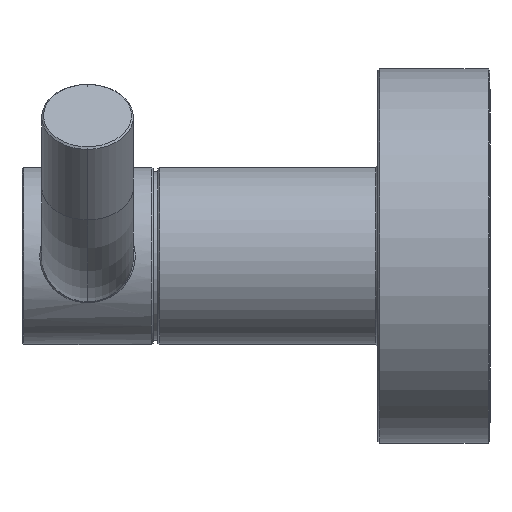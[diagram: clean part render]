
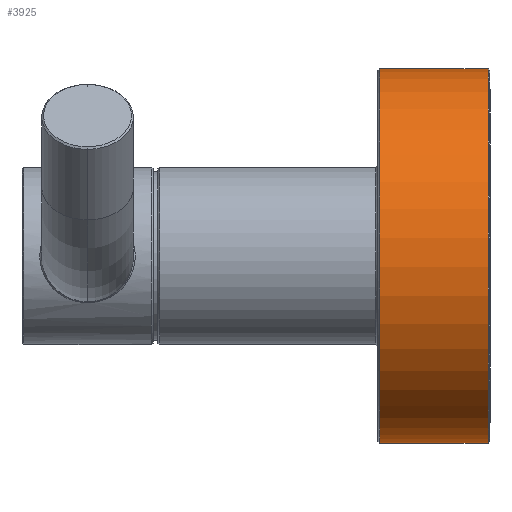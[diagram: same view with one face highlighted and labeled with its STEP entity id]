
A CAD part, left-side view. The second image highlights one B-rep face of the part: STEP entity #3925.
In plain terms, the highlighted cylindrical face has radius 20 mm (diameter 40 mm), a partial arc.
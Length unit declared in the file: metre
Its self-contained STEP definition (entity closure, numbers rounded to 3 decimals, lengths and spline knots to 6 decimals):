
#3894=EDGE_CURVE('',#3895,#3897,#3899,.T.);
#3895=VERTEX_POINT('',#3896);
#3896=CARTESIAN_POINT('',(-0.07,0.0118,0.02));
#3897=VERTEX_POINT('',#3898);
#3898=CARTESIAN_POINT('',(-0.07,0.0002,0.02));
#3899=LINE('',#3900,#3901);
#3900=CARTESIAN_POINT('',(-0.07,0.012,0.02));
#3901=VECTOR('',#3902,1.0);
#3902=DIRECTION('',(0.0,-1.0,0.0));
#3925=ADVANCED_FACE('',(#3931),#3926,.T.);
#3926=CYLINDRICAL_SURFACE('',#3927,0.02);
#3927=AXIS2_PLACEMENT_3D('',#3928,#3929,#3930);
#3928=CARTESIAN_POINT('',(-0.07,0.012,0.0));
#3929=DIRECTION('',(0.0,-1.0,0.0));
#3930=DIRECTION('',(0.0,0.0,-1.0));
#3931=FACE_OUTER_BOUND('',#3932,.T.);
#3932=EDGE_LOOP('',(#3933,#3943,#3950,#3951));
#3933=ORIENTED_EDGE('',*,*,#3934,.T.);
#3934=EDGE_CURVE('',#3935,#3937,#3939,.T.);
#3935=VERTEX_POINT('',#3936);
#3936=CARTESIAN_POINT('',(-0.07,0.0118,-0.02));
#3937=VERTEX_POINT('',#3938);
#3938=CARTESIAN_POINT('',(-0.07,0.0002,-0.02));
#3939=LINE('',#3940,#3941);
#3940=CARTESIAN_POINT('',(-0.07,0.012,-0.02));
#3941=VECTOR('',#3942,1.0);
#3942=DIRECTION('',(0.0,-1.0,0.0));
#3943=ORIENTED_EDGE('',*,*,#3945,.T.);
#3944=CARTESIAN_POINT('',(-0.07,0.0002,0.02));
#3945=EDGE_CURVE('',#3937,#3897,#3946,.F.);
#3946=(B_SPLINE_CURVE(3,(#3944,#3947,#3948,#3949),.UNSPECIFIED.,.F.,.U.)B_SPLINE_CURVE_WITH_KNOTS(
  (4,4),(0.0,1.0),.UNSPECIFIED.)BOUNDED_CURVE()CURVE()GEOMETRIC_REPRESENTATION_ITEM(
  )RATIONAL_B_SPLINE_CURVE((1.0,0.333,0.333,1.0)
  )REPRESENTATION_ITEM(''));
#3947=CARTESIAN_POINT('',(-0.11,0.0002,0.02));
#3948=CARTESIAN_POINT('',(-0.11,0.0002,-0.02));
#3949=CARTESIAN_POINT('',(-0.07,0.0002,-0.02));
#3950=ORIENTED_EDGE('',*,*,#3894,.F.);
#3951=ORIENTED_EDGE('',*,*,#3953,.T.);
#3952=CARTESIAN_POINT('',(-0.07,0.0118,0.02));
#3953=EDGE_CURVE('',#3895,#3935,#3954,.T.);
#3954=(B_SPLINE_CURVE(3,(#3952,#3955,#3956,#3957),.UNSPECIFIED.,.F.,.U.)B_SPLINE_CURVE_WITH_KNOTS(
  (4,4),(0.0,1.0),.UNSPECIFIED.)BOUNDED_CURVE()CURVE()GEOMETRIC_REPRESENTATION_ITEM(
  )RATIONAL_B_SPLINE_CURVE((1.0,0.333,0.333,1.0)
  )REPRESENTATION_ITEM(''));
#3955=CARTESIAN_POINT('',(-0.11,0.0118,0.02));
#3956=CARTESIAN_POINT('',(-0.11,0.0118,-0.02));
#3957=CARTESIAN_POINT('',(-0.07,0.0118,-0.02));
